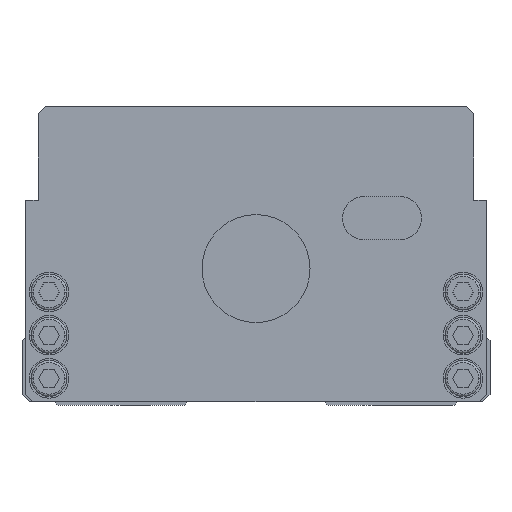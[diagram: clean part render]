
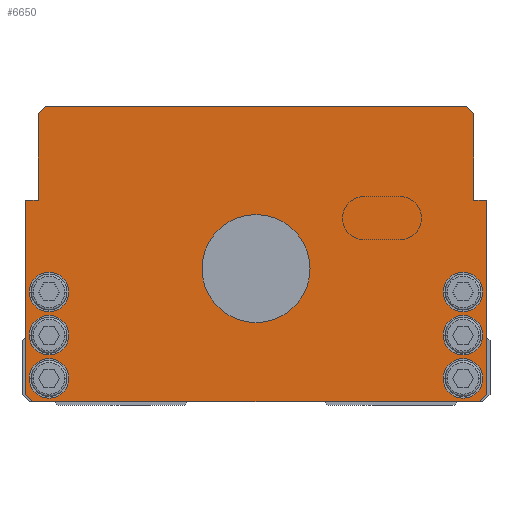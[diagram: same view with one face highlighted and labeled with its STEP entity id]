
A CAD part, front view. The second image highlights one B-rep face of the part: STEP entity #6650.
In plain terms, the highlighted planar face has unit normal (0, -1, 0).
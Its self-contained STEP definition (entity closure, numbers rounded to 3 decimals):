
#6054=VERTEX_POINT('',#17078);
#6110=EDGE_CURVE('',#15598,#6054,#17144,.T.);
#6184=VERTEX_POINT('',#17225);
#6518=EDGE_CURVE('',#12006,#16162,#17592,.T.);
#6650=ADVANCED_FACE('',(#17738,#17739,#17740,#17741,#17742,#17743,#17744,#17745),#17746,.T.);
#6814=EDGE_CURVE('',#14254,#15822,#17929,.T.);
#7108=VERTEX_POINT('',#18257);
#7256=EDGE_CURVE('',#14274,#6184,#18415,.T.);
#7572=VERTEX_POINT('',#18774);
#8038=EDGE_CURVE('',#10346,#10396,#19290,.T.);
#8330=VERTEX_POINT('',#19617);
#8584=VERTEX_POINT('',#19894);
#9100=VERTEX_POINT('',#20470);
#9266=EDGE_CURVE('',#7108,#10888,#20660,.T.);
#9484=VERTEX_POINT('',#20898);
#9926=EDGE_CURVE('',#14230,#14460,#21402,.T.);
#9956=EDGE_CURVE('',#8330,#15960,#21435,.T.);
#10346=VERTEX_POINT('',#21872);
#10394=EDGE_CURVE('',#10396,#9484,#21928,.T.);
#10396=VERTEX_POINT('',#21930);
#10780=EDGE_CURVE('',#11122,#11152,#22362,.T.);
#10818=EDGE_CURVE('',#8584,#9100,#22403,.T.);
#10888=VERTEX_POINT('',#22477);
#11122=VERTEX_POINT('',#22737);
#11126=EDGE_CURVE('',#16162,#12006,#22741,.T.);
#11152=VERTEX_POINT('',#22769);
#11228=EDGE_CURVE('',#6184,#14510,#22853,.T.);
#11376=EDGE_CURVE('',#15960,#14230,#23021,.T.);
#11700=EDGE_CURVE('',#15582,#13286,#23386,.T.);
#12006=VERTEX_POINT('',#23736);
#12186=EDGE_CURVE('',#9100,#8584,#23931,.T.);
#12272=EDGE_CURVE('',#10888,#7108,#24023,.T.);
#12706=EDGE_CURVE('',#6054,#15598,#24512,.T.);
#13286=VERTEX_POINT('',#25168);
#13820=EDGE_CURVE('',#15822,#14254,#25761,.T.);
#13908=EDGE_CURVE('',#11152,#11122,#25860,.T.);
#14230=VERTEX_POINT('',#26218);
#14250=EDGE_CURVE('',#7572,#15518,#26240,.T.);
#14254=VERTEX_POINT('',#26244);
#14274=VERTEX_POINT('',#26266);
#14460=VERTEX_POINT('',#26464);
#14510=VERTEX_POINT('',#26519);
#14582=EDGE_CURVE('',#13286,#15582,#26602,.T.);
#14798=EDGE_CURVE('',#15518,#14274,#26841,.T.);
#15088=EDGE_CURVE('',#14510,#8330,#27168,.T.);
#15518=VERTEX_POINT('',#27651);
#15538=EDGE_CURVE('',#14460,#10346,#27675,.T.);
#15556=EDGE_CURVE('',#9484,#7572,#27694,.T.);
#15582=VERTEX_POINT('',#27724);
#15598=VERTEX_POINT('',#27742);
#15822=VERTEX_POINT('',#27994);
#15960=VERTEX_POINT('',#28142);
#16162=VERTEX_POINT('',#28365);
#17078=CARTESIAN_POINT('',(-63.0,0.0,19.5));
#17144=CIRCLE('',#29636,5.5);
#17225=CARTESIAN_POINT('',(-64.0,0.0,57.0));
#17592=CIRCLE('',#30238,5.5);
#17738=FACE_BOUND('',#30446,.T.);
#17739=FACE_BOUND('',#30447,.T.);
#17740=FACE_BOUND('',#30448,.T.);
#17741=FACE_BOUND('',#30449,.T.);
#17742=FACE_BOUND('',#30450,.T.);
#17743=FACE_BOUND('',#30451,.T.);
#17744=FACE_BOUND('',#30452,.T.);
#17745=FACE_OUTER_BOUND('',#30453,.T.);
#17746=PLANE('',#30454);
#17929=CIRCLE('',#30710,5.5);
#18257=CARTESIAN_POINT('',(15.0,0.0,38.0));
#18415=LINE('',#31352,#31353);
#18774=CARTESIAN_POINT('',(62.0,0.0,1.0));
#19290=LINE('',#32586,#32587);
#19617=CARTESIAN_POINT('',(-60.5,0.0,81.0));
#19894=CARTESIAN_POINT('',(-52.0,0.0,7.5));
#20470=CARTESIAN_POINT('',(-63.0,0.0,7.5));
#20660=CIRCLE('',#34451,15.0);
#20898=CARTESIAN_POINT('',(64.0,0.0,3.0));
#21402=LINE('',#35446,#35447);
#21435=LINE('',#35492,#35493);
#21872=CARTESIAN_POINT('',(60.5,0.0,57.0));
#21928=LINE('',#36173,#36174);
#21930=CARTESIAN_POINT('',(64.0,0.0,57.0));
#22362=CIRCLE('',#36756,5.5);
#22403=CIRCLE('',#36814,5.5);
#22477=CARTESIAN_POINT('',(-15.0,0.0,38.0));
#22737=CARTESIAN_POINT('',(-63.0,0.0,31.5));
#22741=CIRCLE('',#37281,5.5);
#22769=CARTESIAN_POINT('',(-52.0,0.0,31.5));
#22853=LINE('',#37455,#37456);
#23021=LINE('',#37686,#37687);
#23386=CIRCLE('',#38193,5.5);
#23736=CARTESIAN_POINT('',(52.0,0.0,19.5));
#23931=CIRCLE('',#38937,5.5);
#24023=CIRCLE('',#39071,15.0);
#24512=CIRCLE('',#39744,5.5);
#25168=CARTESIAN_POINT('',(63.0,0.0,7.5));
#25761=CIRCLE('',#41431,5.5);
#25860=CIRCLE('',#41561,5.5);
#26218=CARTESIAN_POINT('',(58.5,0.0,83.0));
#26240=LINE('',#42115,#42116);
#26244=CARTESIAN_POINT('',(63.0,0.0,31.5));
#26266=CARTESIAN_POINT('',(-64.0,0.0,3.0));
#26464=CARTESIAN_POINT('',(60.5,0.0,81.0));
#26519=CARTESIAN_POINT('',(-60.5,0.0,57.0));
#26602=CIRCLE('',#42624,5.5);
#26841=LINE('',#42976,#42977);
#27168=LINE('',#43422,#43423);
#27651=CARTESIAN_POINT('',(-62.0,0.0,1.0));
#27675=LINE('',#44092,#44093);
#27694=LINE('',#44120,#44121);
#27724=CARTESIAN_POINT('',(52.0,0.0,7.5));
#27742=CARTESIAN_POINT('',(-52.0,0.0,19.5));
#27994=CARTESIAN_POINT('',(52.0,0.0,31.5));
#28142=CARTESIAN_POINT('',(-58.5,0.0,83.0));
#28365=CARTESIAN_POINT('',(63.0,0.0,19.5));
#29636=AXIS2_PLACEMENT_3D('',#46259,#46260,#46261);
#30238=AXIS2_PLACEMENT_3D('',#46756,#46757,#46758);
#30446=EDGE_LOOP('',(#46916,#46917));
#30447=EDGE_LOOP('',(#46918,#46919));
#30448=EDGE_LOOP('',(#46920,#46921));
#30449=EDGE_LOOP('',(#46922,#46923));
#30450=EDGE_LOOP('',(#46924,#46925));
#30451=EDGE_LOOP('',(#46926,#46927));
#30452=EDGE_LOOP('',(#46928,#46929));
#30453=EDGE_LOOP('',(#46930,#46931,#46932,#46933,#46934,#46935,#46936,#46937,#46938,#46939,#46940,#46941));
#30454=AXIS2_PLACEMENT_3D('',#46942,#46943,#46944);
#30710=AXIS2_PLACEMENT_3D('',#47155,#47156,#47157);
#31352=CARTESIAN_POINT('',(-64.0,0.0,57.0));
#31353=VECTOR('',#47657,1.0);
#32586=CARTESIAN_POINT('',(64.0,0.0,57.0));
#32587=VECTOR('',#48716,1.0);
#34451=AXIS2_PLACEMENT_3D('',#50364,#50365,#50366);
#35446=CARTESIAN_POINT('',(60.5,0.0,81.0));
#35447=VECTOR('',#51241,1.);
#35492=CARTESIAN_POINT('',(-58.5,0.0,83.0));
#35493=VECTOR('',#51280,1.);
#36173=CARTESIAN_POINT('',(64.0,0.0,3.0));
#36174=VECTOR('',#51878,1.0);
#36756=AXIS2_PLACEMENT_3D('',#52393,#52394,#52395);
#36814=AXIS2_PLACEMENT_3D('',#52440,#52441,#52442);
#37281=AXIS2_PLACEMENT_3D('',#52805,#52806,#52807);
#37455=CARTESIAN_POINT('',(-60.5,0.0,57.0));
#37456=VECTOR('',#52938,1.0);
#37686=CARTESIAN_POINT('',(58.5,0.0,83.0));
#37687=VECTOR('',#53143,1.0);
#38193=AXIS2_PLACEMENT_3D('',#53596,#53597,#53598);
#38937=AXIS2_PLACEMENT_3D('',#54219,#54220,#54221);
#39071=AXIS2_PLACEMENT_3D('',#54310,#54311,#54312);
#39744=AXIS2_PLACEMENT_3D('',#54859,#54860,#54861);
#41431=AXIS2_PLACEMENT_3D('',#56267,#56268,#56269);
#41561=AXIS2_PLACEMENT_3D('',#56377,#56378,#56379);
#42115=CARTESIAN_POINT('',(-62.0,0.0,1.0));
#42116=VECTOR('',#56841,1.0);
#42624=AXIS2_PLACEMENT_3D('',#57197,#57198,#57199);
#42976=CARTESIAN_POINT('',(-64.0,0.0,3.0));
#42977=VECTOR('',#57462,1.);
#43422=CARTESIAN_POINT('',(-60.5,0.0,81.0));
#43423=VECTOR('',#57944,1.0);
#44092=CARTESIAN_POINT('',(60.5,0.0,57.0));
#44093=VECTOR('',#58540,1.0);
#44120=CARTESIAN_POINT('',(62.0,0.0,1.0));
#44121=VECTOR('',#58560,1.);
#46259=CARTESIAN_POINT('',(-57.5,0.0,19.5));
#46260=DIRECTION('',(-0.0,1.0,0.0));
#46261=DIRECTION('',(1.0,0.0,0.0));
#46756=CARTESIAN_POINT('',(57.5,0.0,19.5));
#46757=DIRECTION('',(-0.0,1.0,0.0));
#46758=DIRECTION('',(1.0,0.0,0.0));
#46916=ORIENTED_EDGE('',*,*,#9266,.T.);
#46917=ORIENTED_EDGE('',*,*,#12272,.T.);
#46918=ORIENTED_EDGE('',*,*,#6814,.T.);
#46919=ORIENTED_EDGE('',*,*,#13820,.T.);
#46920=ORIENTED_EDGE('',*,*,#11126,.T.);
#46921=ORIENTED_EDGE('',*,*,#6518,.T.);
#46922=ORIENTED_EDGE('',*,*,#14582,.T.);
#46923=ORIENTED_EDGE('',*,*,#11700,.T.);
#46924=ORIENTED_EDGE('',*,*,#13908,.T.);
#46925=ORIENTED_EDGE('',*,*,#10780,.T.);
#46926=ORIENTED_EDGE('',*,*,#6110,.T.);
#46927=ORIENTED_EDGE('',*,*,#12706,.T.);
#46928=ORIENTED_EDGE('',*,*,#10818,.T.);
#46929=ORIENTED_EDGE('',*,*,#12186,.T.);
#46930=ORIENTED_EDGE('',*,*,#14798,.F.);
#46931=ORIENTED_EDGE('',*,*,#14250,.F.);
#46932=ORIENTED_EDGE('',*,*,#15556,.F.);
#46933=ORIENTED_EDGE('',*,*,#10394,.F.);
#46934=ORIENTED_EDGE('',*,*,#8038,.F.);
#46935=ORIENTED_EDGE('',*,*,#15538,.F.);
#46936=ORIENTED_EDGE('',*,*,#9926,.F.);
#46937=ORIENTED_EDGE('',*,*,#11376,.F.);
#46938=ORIENTED_EDGE('',*,*,#9956,.F.);
#46939=ORIENTED_EDGE('',*,*,#15088,.F.);
#46940=ORIENTED_EDGE('',*,*,#11228,.F.);
#46941=ORIENTED_EDGE('',*,*,#7256,.F.);
#46942=CARTESIAN_POINT('',(0.,0.0,41.562));
#46943=DIRECTION('',(0.0,-1.0,0.0));
#46944=DIRECTION('',(1.0,0.0,0.0));
#47155=CARTESIAN_POINT('',(57.5,0.0,31.5));
#47156=DIRECTION('',(-0.0,1.0,0.0));
#47157=DIRECTION('',(1.0,0.0,0.0));
#47657=DIRECTION('',(0.0,0.0,1.0));
#48716=DIRECTION('',(1.0,0.0,0.0));
#50364=CARTESIAN_POINT('',(0.0,0.0,38.0));
#50365=DIRECTION('',(-0.0,1.0,0.0));
#50366=DIRECTION('',(1.0,0.0,0.0));
#51241=DIRECTION('',(0.707,0.0,-0.707));
#51280=DIRECTION('',(0.707,0.0,0.707));
#51878=DIRECTION('',(-0.0,0.0,-1.0));
#52393=CARTESIAN_POINT('',(-57.5,0.0,31.5));
#52394=DIRECTION('',(-0.0,1.0,0.0));
#52395=DIRECTION('',(1.0,0.0,0.0));
#52440=CARTESIAN_POINT('',(-57.5,0.0,7.5));
#52441=DIRECTION('',(-0.0,1.0,0.0));
#52442=DIRECTION('',(1.0,0.0,0.0));
#52805=CARTESIAN_POINT('',(57.5,0.0,19.5));
#52806=DIRECTION('',(-0.0,1.0,0.0));
#52807=DIRECTION('',(1.0,0.0,0.0));
#52938=DIRECTION('',(1.0,0.0,0.0));
#53143=DIRECTION('',(1.0,0.0,0.0));
#53596=CARTESIAN_POINT('',(57.5,0.0,7.5));
#53597=DIRECTION('',(-0.0,1.0,0.0));
#53598=DIRECTION('',(1.0,0.0,0.0));
#54219=CARTESIAN_POINT('',(-57.5,0.0,7.5));
#54220=DIRECTION('',(-0.0,1.0,0.0));
#54221=DIRECTION('',(1.0,0.0,0.0));
#54310=CARTESIAN_POINT('',(0.0,0.0,38.0));
#54311=DIRECTION('',(-0.0,1.0,0.0));
#54312=DIRECTION('',(1.0,0.0,0.0));
#54859=CARTESIAN_POINT('',(-57.5,0.0,19.5));
#54860=DIRECTION('',(-0.0,1.0,0.0));
#54861=DIRECTION('',(1.0,0.0,0.0));
#56267=CARTESIAN_POINT('',(57.5,0.0,31.5));
#56268=DIRECTION('',(-0.0,1.0,0.0));
#56269=DIRECTION('',(1.0,0.0,0.0));
#56377=CARTESIAN_POINT('',(-57.5,0.0,31.5));
#56378=DIRECTION('',(-0.0,1.0,0.0));
#56379=DIRECTION('',(1.0,0.0,0.0));
#56841=DIRECTION('',(-1.0,0.0,-0.0));
#57197=CARTESIAN_POINT('',(57.5,0.0,7.5));
#57198=DIRECTION('',(-0.0,1.0,0.0));
#57199=DIRECTION('',(1.0,0.0,0.0));
#57462=DIRECTION('',(-0.707,0.0,0.707));
#57944=DIRECTION('',(0.0,0.0,1.0));
#58540=DIRECTION('',(-0.0,0.0,-1.0));
#58560=DIRECTION('',(-0.707,0.0,-0.707));
